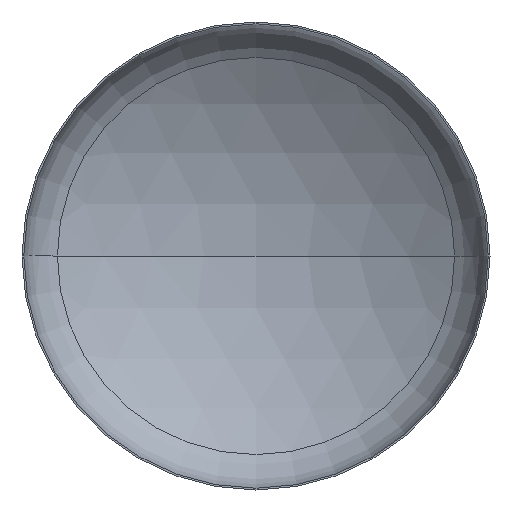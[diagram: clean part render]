
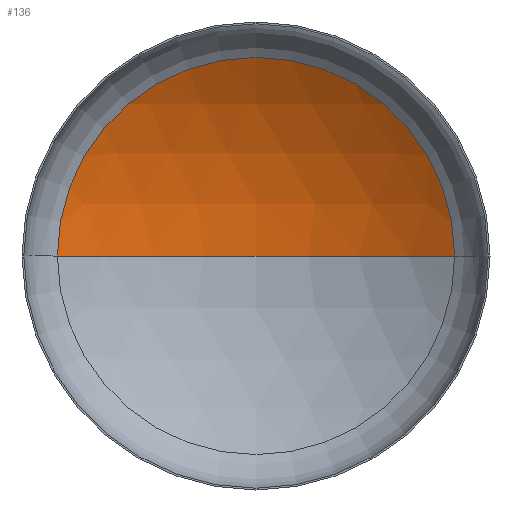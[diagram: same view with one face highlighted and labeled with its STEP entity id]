
A CAD part, front view. The second image highlights one B-rep face of the part: STEP entity #136.
In plain terms, the highlighted spherical face has radius 1440 mm.
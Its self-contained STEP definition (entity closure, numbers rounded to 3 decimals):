
#5 = AXIS2_PLACEMENT_3D ( 'NONE', #152, #319, #216 ) ;
#16 = VERTEX_POINT ( 'NONE', #257 ) ;
#25 = EDGE_LOOP ( 'NONE', ( #122, #115, #75 ) ) ;
#28 = AXIS2_PLACEMENT_3D ( 'NONE', #278, #207, #382 ) ;
#48 = VERTEX_POINT ( 'NONE', #233 ) ;
#75 = ORIENTED_EDGE ( 'NONE', *, *, #346, .T. ) ;
#83 = AXIS2_PLACEMENT_3D ( 'NONE', #196, #300, #299 ) ;
#115 = ORIENTED_EDGE ( 'NONE', *, *, #380, .T. ) ;
#122 = ORIENTED_EDGE ( 'NONE', *, *, #375, .F. ) ;
#126 = VERTEX_POINT ( 'NONE', #325 ) ;
#136 = ADVANCED_FACE ( 'NONE', ( #292 ), #211, .F. ) ;
#148 = CARTESIAN_POINT ( 'NONE',  ( 0., -962.573, 0. ) ) ;
#152 = CARTESIAN_POINT ( 'NONE',  ( 0., -962.573, 0. ) ) ;
#170 = DIRECTION ( 'NONE',  ( -1., 0., 0. ) ) ;
#196 = CARTESIAN_POINT ( 'NONE',  ( 0., -962.573, 0. ) ) ;
#207 = DIRECTION ( 'NONE',  ( 0., -1., 0. ) ) ;
#211 = SPHERICAL_SURFACE ( 'NONE', #83, 1440. ) ;
#216 = DIRECTION ( 'NONE',  ( 1., 0., 0. ) ) ;
#223 = CIRCLE ( 'NONE', #5, 1440. ) ;
#233 = CARTESIAN_POINT ( 'NONE',  ( 0., 477.427, 0. ) ) ;
#257 = CARTESIAN_POINT ( 'NONE',  ( -763.88, 258.118, 0. ) ) ;
#278 = CARTESIAN_POINT ( 'NONE',  ( 0., 258.118, 0. ) ) ;
#292 = FACE_OUTER_BOUND ( 'NONE', #25, .T. ) ;
#299 = DIRECTION ( 'NONE',  ( -1., 0., 0. ) ) ;
#300 = DIRECTION ( 'NONE',  ( 0., 0., -1. ) ) ;
#315 = DIRECTION ( 'NONE',  ( 0., 0., -1. ) ) ;
#319 = DIRECTION ( 'NONE',  ( 0., 0., 1. ) ) ;
#325 = CARTESIAN_POINT ( 'NONE',  ( 763.88, 258.118, 0. ) ) ;
#346 = EDGE_CURVE ( 'NONE', #126, #16, #368, .T. ) ;
#353 = CIRCLE ( 'NONE', #369, 1440. ) ;
#368 = CIRCLE ( 'NONE', #28, 763.88 ) ;
#369 = AXIS2_PLACEMENT_3D ( 'NONE', #148, #315, #170 ) ;
#375 = EDGE_CURVE ( 'NONE', #48, #16, #223, .T. ) ;
#380 = EDGE_CURVE ( 'NONE', #48, #126, #353, .T. ) ;
#382 = DIRECTION ( 'NONE',  ( 1., 0., 0. ) ) ;
